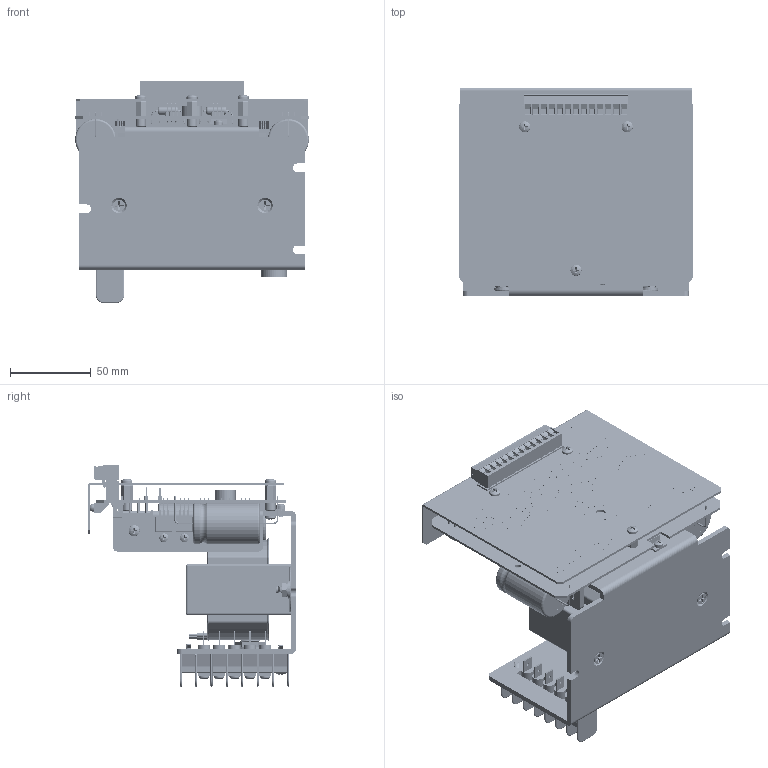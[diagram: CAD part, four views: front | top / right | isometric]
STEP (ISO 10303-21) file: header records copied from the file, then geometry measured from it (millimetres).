
FILE_DESCRIPTION (( 'STEP AP214' ), '1' );
FILE_NAME ('DPS32001.STEP', '2010-11-29T21:48:26', ( 'Tim Raines' ), ( 'Anaheim Automation' ), 'SwSTEP 2.0', 'SolidWorks 2011', '' );
FILE_SCHEMA (( 'AUTOMOTIVE_DESIGN' ));
Length unit declared in the file: inch
Products named in the file (41): machine screw nut hex_ai_MSHXNUT 0.164-32-D-S; flat washer type a narrow_ai_Preferred Narrow FW 0.164; flat head screw_ai_CR-FHMS 0.164-32x0.5x0.5-S; Transformer, AA2738B; pan cross head_ai_CR-PHMS 0.138-32x0.625x0.625-S; internal tooth-lock washers_ai_Internal Tooth LW Type B-0.164; Standoff, 6-32x.250, ROUND_6-32 X .312; pan cross head_ai_CR-PHMS 0.138-32x0.3125x0.3125-S; TMB-SS6TM050501N; pan cross head_ai_CR-PHMS 0.138-32x0.25x0.25-S; NUT, FSH-382038L; FSH-342038L; Nomenclature Plate, DPS32 Series; Chassis, DPS32 Series; 1754669; Pan Cross Head_AI_CR-PHMS 0.112-40x0.25x0.25-S; WSH-KE3049; ICS-LM35DT; VRG-TL783CKC; DIO-MBR2545CT; DIO-MBR1635; DIO-FES8DT; TRS-IRF6215; TRS-0009; Pan Cross Head_AI_CR-PHMS 0.138-32x0.5x0.5-S; DIO-KBU8G_Short pins; Standoff, 6-32x.250_STD-63238H; Pan Cross Head_AI_CR-PHMS 0.138-32x0.5625x0.5625-S; Standoff, 6-32x.250, ROUND_6-32 x .188; AA3840B-1PCB; POT-93PR1K; CAP-0058; CAP-0057; QDS-836; LED-RA Series_LED-0001; LED-RA Series_LED-0002; CON-929834-01-03; RES-3W-.05; 1755613; AA3840BPCB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
Assembly tree (89 placements, depth 3):
  DPS32001
    WSH-KE3049  x13
    Pan Cross Head_AI_CR-PHMS 0.112-40x0.25x0.25-S  x13
    NUT, FSH-382038L
    AA3840B-1PCB
      CAP-0058
      QDS-836  x4
      CAP-0057
      LED-RA Series_LED-0001
      CON-929834-01-03  x3
      RES-3W-.05  x2
      AA3840BPCB
      POT-93PR1K
      1755613
      LED-RA Series_LED-0002
    TRS-IRF6215  x2
    ICS-LM35DT
    Nomenclature Plate, DPS32 Series
    machine screw nut hex_ai_MSHXNUT 0.164-32-D-S  x2
    internal tooth-lock washers_ai_Internal Tooth LW Type B-0.164  x3
    Chassis, DPS32 Series
    Standoff, 6-32x.250, ROUND_6-32 x .188  x3
    flat washer type a narrow_ai_Preferred Narrow FW 0.164  x2
    FSH-342038L
    flat head screw_ai_CR-FHMS 0.164-32x0.5x0.5-S  x2
    pan cross head_ai_CR-PHMS 0.138-32x0.3125x0.3125-S
    Standoff, 6-32x.250_STD-63238H  x3
    DIO-FES8DT  x2
    Pan Cross Head_AI_CR-PHMS 0.138-32x0.5625x0.5625-S  x3
    TRS-0009  x4
    DIO-MBR2545CT
    1754669
    pan cross head_ai_CR-PHMS 0.138-32x0.25x0.25-S  x3
    Standoff, 6-32x.250, ROUND_6-32 X .312
    VRG-TL783CKC
    Transformer, AA2738B
    Pan Cross Head_AI_CR-PHMS 0.138-32x0.5x0.5-S
    TMB-SS6TM050501N
    DIO-KBU8G_Short pins
    pan cross head_ai_CR-PHMS 0.138-32x0.625x0.625-S
    DIO-MBR1635  x2
Bounding box: 144.78 x 128.93 x 137.48 mm (x, y, z)
Volume: 473231.7 mm3; surface area: 235128 mm2
Topology: 88 solids, 88 shells, 13307 faces, 34528 edges, 22389 vertices
Faces by surface type: plane 7515, bspline 2458, cylinder 1865, cone 1245, torus 166, sphere 58
Entity records: 593057 total; most frequent: CARTESIAN_POINT 204286, ORIENTED_EDGE 57136, DIRECTION 44209, EDGE_CURVE 28568, VECTOR 19847, LINE 19847, VERTEX_POINT 18679, EDGE_LOOP 12201
